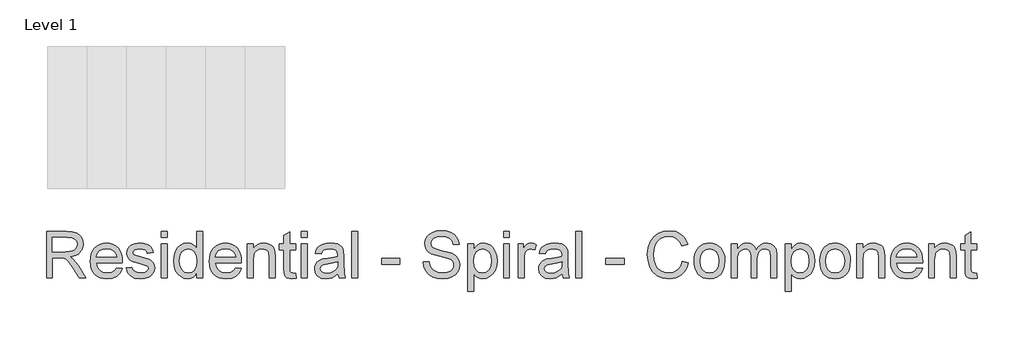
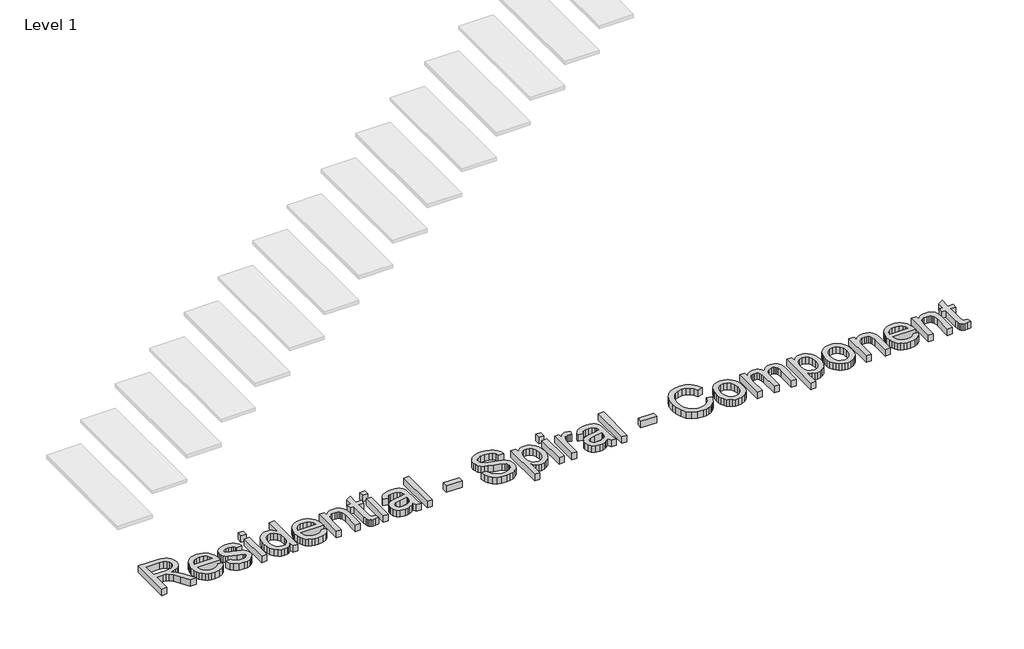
# One storey, part 3 of 26: 1 proxy.
"""IFC4 building model written with IfcOpenShell, lengths in millimetres."""

from ifc_helpers import new_model, si_unit, origin, origin_with_axes, place, context, project, spatial, polyline, outline, extrude, element, save

model = new_model("IFC4")

# Units and contexts
model_context = context("Model", 3, world=origin())
ifc_project = project(units=[si_unit("LENGTHUNIT", "METRE", prefix="MILLI")], contexts=[model_context])

# Site, building, storey
site = spatial("IfcSite", under=ifc_project)
building = spatial("IfcBuilding", under=site)
storey = spatial("IfcBuildingStorey", under=building, Name="Level 1", Elevation=0.0)

# Proxy
placement = place(None, origin())
element("IfcBuildingElementProxy", 1, Name="12\" Arial", ObjectType="12\" Arial", at=placement, inside=storey, context=model_context, shape_type="SweptSolid", body=[
    extrude(outline(polyline([(-27238.310174, -17955.1232123), (-27238.310174, -17655.012443), (-27108.9899817, -17655.012443), (-27074.2328904, -17657.0365055), (-27048.9458471, -17663.108693), (-27030.4636837, -17674.3188854), (-27016.1212317, -17691.7569623), (-27006.9167846, -17713.380544), (-27003.8486356, -17737.1472507), (-27008.9316885, -17766.7113854), (-27024.1808471, -17791.219943), (-27035.7321993, -17801.2074551), (-27050.0540442, -17809.1892219), (-27087.0092125, -17819.13552), (-27065.6878664, -17835.1814815), (-27035.2811356, -17873.7943661), (-26985.238251, -17955.1232123), (-27028.8334433, -17955.1232123), (-27067.8859433, -17892.9176354), (-27096.0945971, -17851.7403277), (-27115.913924, -17832.2873469), (-27133.7549817, -17825.1435969), (-27155.5159433, -17823.8247507), (-27200.7963279, -17823.8247507), (-27200.7963279, -17955.1232123), (-27238.310174, -17955.1232123)]), holes=[polyline([(-27200.7963279, -17786.3109046), (-27116.8297894, -17786.3109046), (-27092.7150539, -17784.9828998), (-27074.003924, -17780.9988854), (-27059.9179144, -17774.0932604), (-27049.6785394, -17764.0004238), (-27043.4414962, -17751.7919382), (-27041.3624817, -17738.5393661), (-27045.3281789, -17720.2403757), (-27057.2252702, -17705.494943), (-27077.6948615, -17695.7684527), (-27107.3780587, -17692.5262892), (-27200.7963279, -17692.5262892), (-27200.7963279, -17786.3109046)])]), origin_with_axes(), (0.0, 0.0, 1.0), 50.8),
    extrude(outline(polyline([(-26788.5836356, -17889.4739815), (-26751.8024817, -17894.1632123), (-26765.0550539, -17921.8772988), (-26786.2023856, -17942.5941738), (-26814.7682269, -17955.5078757), (-26850.2763279, -17959.812443), (-26873.5530466, -17957.955526), (-26894.2928183, -17952.3847748), (-26912.4956428, -17943.1001894), (-26928.1615202, -17930.10177), (-26940.7592486, -17913.7512832), (-26949.757626, -17894.4104959), (-26955.1566524, -17872.0794082), (-26956.9563279, -17846.75802), (-26955.1383351, -17820.5780079), (-26949.6843567, -17797.5027796), (-26940.5943928, -17777.5323349), (-26927.8684433, -17760.6666738), (-26912.2437798, -17747.2675632), (-26894.457674, -17737.69677), (-26874.510126, -17731.954294), (-26852.4011356, -17730.0401354), (-26831.0042305, -17731.9497147), (-26811.6542846, -17737.6784527), (-26794.3512978, -17747.2263493), (-26779.0952702, -17760.5934046), (-26766.6417906, -17777.422431), (-26757.7464481, -17797.3562411), (-26752.4092426, -17820.3948349), (-26750.630174, -17846.5382123), (-26750.8499817, -17856.6493661), (-26919.4424817, -17856.6493661), (-26912.9489962, -17884.7297988), (-26897.8646933, -17905.3734046), (-26876.0945731, -17918.0672988), (-26849.5436356, -17922.2985969), (-26829.5777702, -17920.338645), (-26812.7624817, -17914.4587892), (-26799.0977702, -17904.2926834), (-26788.5836356, -17889.4739815)]), holes=[polyline([(-26919.4424817, -17819.13552), (-26788.1440202, -17819.13552), (-26793.2179144, -17799.316193), (-26803.1642125, -17785.1385969), (-26825.0350779, -17771.9501354), (-26852.547674, -17767.5539815), (-26877.8347173, -17771.0617459), (-26898.743924, -17781.5850392), (-26913.2787077, -17797.9881882), (-26919.4424817, -17819.13552)])]), origin_with_axes(), (0.0, 0.0, 1.0), 50.8),
    extrude(outline(polyline([(-26727.1840202, -17889.4739815), (-26689.670174, -17884.7847507), (-26683.7536837, -17900.8307123), (-26672.3053664, -17912.6270584), (-26655.2519529, -17919.8807123), (-26632.520174, -17922.2985969), (-26610.0631548, -17920.0822027), (-26594.2736356, -17913.43302), (-26584.9318087, -17903.7981161), (-26581.8178664, -17892.6245584), (-26584.950126, -17883.0629238), (-26594.3469048, -17875.7726354), (-26632.9597894, -17865.0753277), (-26689.4503664, -17846.7213854), (-26703.747025, -17837.4986209), (-26714.1054625, -17825.2901354), (-26720.3974577, -17810.8744142), (-26722.4947894, -17795.029943), (-26720.8095971, -17780.4951594), (-26715.7540202, -17767.0777315), (-26707.7859914, -17755.3088613), (-26697.3634433, -17745.7197507), (-26673.5143087, -17734.6194623), (-26641.2392125, -17730.0401354), (-26616.8222414, -17731.8810248), (-26595.5924817, -17737.403693), (-26578.520751, -17746.0677796), (-26566.5778664, -17757.3329238), (-26558.6647894, -17772.0325632), (-26553.6824817, -17791.0001354), (-26591.1963279, -17795.6893661), (-26595.9313519, -17783.8838613), (-26605.3006548, -17774.9908084), (-26619.3958231, -17769.4131882), (-26638.3084433, -17767.5539815), (-26659.8495971, -17769.3307604), (-26674.2103664, -17774.6610969), (-26682.288299, -17782.3543661), (-26684.9809433, -17791.219943), (-26680.5115202, -17802.1370584), (-26666.5170971, -17810.4164815), (-26634.2053664, -17818.4028277), (-26579.1435394, -17836.0607123), (-26564.5995971, -17844.5049911), (-26553.5725779, -17856.0632123), (-26546.6211596, -17870.7720104), (-26544.3040202, -17888.66802), (-26547.0241404, -17907.1685007), (-26555.184501, -17924.569943), (-26568.4737077, -17939.5077075), (-26586.5803664, -17950.6171546), (-26608.4512317, -17957.5136209), (-26633.0330587, -17959.812443), (-26670.858299, -17955.3796546), (-26698.4624817, -17942.0812892), (-26716.8896933, -17920.0638854), (-26727.1840202, -17889.4739815)])), origin_with_axes(), (0.0, 0.0, 1.0), 50.8),
    extrude(outline(polyline([(-26502.1009433, -17955.1232123), (-26502.1009433, -17734.7293661), (-26464.5870971, -17734.7293661), (-26464.5870971, -17955.1232123), (-26502.1009433, -17955.1232123)])), origin_with_axes(), (0.0, 0.0, 1.0), 50.8),
    extrude(outline(polyline([(-26502.1009433, -17692.5262892), (-26502.1009433, -17655.012443), (-26464.5870971, -17655.012443), (-26464.5870971, -17692.5262892), (-26502.1009433, -17692.5262892)])), origin_with_axes(), (0.0, 0.0, 1.0), 50.8),
    extrude(outline(polyline([(-26272.3286356, -17955.1232123), (-26272.3286356, -17919.7341738), (-26283.5525659, -17937.2684166), (-26297.1485875, -17949.7928757), (-26313.1167005, -17957.3075512), (-26331.4569048, -17959.812443), (-26355.7090202, -17956.1856161), (-26377.9095971, -17945.3051354), (-26396.7031548, -17927.931169), (-26410.7342125, -17904.8238854), (-26419.4715683, -17876.9174671), (-26422.3840202, -17845.1460969), (-26419.7005346, -17813.7685488), (-26411.6500779, -17785.4316738), (-26398.2418087, -17761.747395), (-26379.4848856, -17744.3276354), (-26356.7989, -17733.6120104), (-26331.6034433, -17730.0401354), (-26313.249501, -17732.5953998), (-26297.0203664, -17740.261193), (-26283.2640683, -17752.0117459), (-26272.3286356, -17766.8212892), (-26272.3286356, -17655.012443), (-26234.8147894, -17655.012443), (-26234.8147894, -17955.1232123), (-26272.3286356, -17955.1232123)]), holes=[polyline([(-26384.870174, -17844.9995584), (-26380.638876, -17878.9323709), (-26367.9449817, -17903.0654238), (-26349.4994529, -17917.4903036), (-26328.013251, -17922.2985969), (-26306.5362077, -17917.7101113), (-26288.5577702, -17903.9446546), (-26276.3859192, -17880.7457844), (-26272.3286356, -17847.8570584), (-26276.4591885, -17811.9001834), (-26288.8508471, -17786.9703277), (-26307.2872173, -17772.408068), (-26329.5519048, -17767.5539815), (-26351.2579144, -17772.2157363), (-26369.0440202, -17786.2010007), (-26380.9136356, -17810.2241498), (-26384.870174, -17844.9995584)])]), origin_with_axes(), (0.0, 0.0, 1.0), 50.8),
    extrude(outline(polyline([(-26024.2390202, -17889.4739815), (-25987.4578664, -17894.1632123), (-26000.7104385, -17921.8772988), (-26021.8577702, -17942.5941738), (-26050.4236115, -17955.5078757), (-26085.9317125, -17959.812443), (-26109.2084313, -17957.955526), (-26129.9482029, -17952.3847748), (-26148.1510274, -17943.1001894), (-26163.8169048, -17930.10177), (-26176.4146332, -17913.7512832), (-26185.4130106, -17894.4104959), (-26190.812037, -17872.0794082), (-26192.6117125, -17846.75802), (-26190.7937197, -17820.5780079), (-26185.3397414, -17797.5027796), (-26176.2497774, -17777.5323349), (-26163.5238279, -17760.6666738), (-26147.8991644, -17747.2675632), (-26130.1130587, -17737.69677), (-26110.1655106, -17731.954294), (-26088.0565202, -17730.0401354), (-26066.6596152, -17731.9497147), (-26047.3096692, -17737.6784527), (-26030.0066825, -17747.2263493), (-26014.7506548, -17760.5934046), (-26002.2971753, -17777.422431), (-25993.4018327, -17797.3562411), (-25988.0646272, -17820.3948349), (-25986.2855587, -17846.5382123), (-25986.5053664, -17856.6493661), (-26155.0978664, -17856.6493661), (-26148.6043808, -17884.7297988), (-26133.5200779, -17905.3734046), (-26111.7499577, -17918.0672988), (-26085.1990202, -17922.2985969), (-26065.2331548, -17920.338645), (-26048.4178664, -17914.4587892), (-26034.7531548, -17904.2926834), (-26024.2390202, -17889.4739815)]), holes=[polyline([(-26155.0978664, -17819.13552), (-26023.7994048, -17819.13552), (-26028.873299, -17799.316193), (-26038.8195971, -17785.1385969), (-26060.6904625, -17771.9501354), (-26088.2030587, -17767.5539815), (-26113.4901019, -17771.0617459), (-26134.3993087, -17781.5850392), (-26148.9340923, -17797.9881882), (-26155.0978664, -17819.13552)])]), origin_with_axes(), (0.0, 0.0, 1.0), 50.8),
    extrude(outline(polyline([(-25948.7717125, -17955.1232123), (-25948.7717125, -17734.7293661), (-25911.2578664, -17734.7293661), (-25911.2578664, -17765.502443), (-25898.2251019, -17749.9876834), (-25882.5729625, -17738.9057123), (-25864.3014481, -17732.2565296), (-25843.4105587, -17730.0401354), (-25824.9192365, -17731.8260729), (-25807.9848856, -17737.1838854), (-25793.8622414, -17745.4449911), (-25783.8060394, -17755.9408084), (-25772.5592125, -17783.5266738), (-25770.5809433, -17819.794943), (-25770.5809433, -17955.1232123), (-25808.0947894, -17955.1232123), (-25808.0947894, -17824.85052), (-25812.417674, -17791.6595584), (-25818.398275, -17781.7773709), (-25827.6943087, -17774.1115777), (-25839.6097173, -17769.1933805), (-25853.4484433, -17767.5539815), (-25875.4200539, -17771.2357604), (-25894.149501, -17782.2810969), (-25901.6344108, -17791.2977916), (-25906.980775, -17803.6207604), (-25911.2578664, -17838.18552), (-25911.2578664, -17955.1232123), (-25948.7717125, -17955.1232123)])), origin_with_axes(), (0.0, 0.0, 1.0), 50.8),
    extrude(outline(polyline([(-25639.2824817, -17923.8372507), (-25634.593251, -17956.2222507), (-25662.6553664, -17959.812443), (-25680.6612798, -17958.2554719), (-25694.0878664, -17953.5845584), (-25703.5762317, -17946.3858565), (-25709.7674817, -17937.24552), (-25713.174501, -17921.5475873), (-25714.310174, -17894.6760969), (-25714.310174, -17772.2432123), (-25742.4455587, -17772.2432123), (-25742.4455587, -17734.7293661), (-25714.310174, -17734.7293661), (-25714.310174, -17681.1695584), (-25676.7963279, -17659.11552), (-25676.7963279, -17734.7293661), (-25639.2824817, -17734.7293661), (-25639.2824817, -17772.2432123), (-25676.7963279, -17772.2432123), (-25676.7963279, -17893.5770584), (-25674.8180587, -17912.9201354), (-25668.407001, -17919.7708084), (-25655.6215202, -17922.2985969), (-25639.2824817, -17923.8372507)])), origin_with_axes(), (0.0, 0.0, 1.0), 50.8),
    extrude(outline(polyline([(-25601.7686356, -17955.1232123), (-25601.7686356, -17734.7293661), (-25564.2547894, -17734.7293661), (-25564.2547894, -17955.1232123), (-25601.7686356, -17955.1232123)])), origin_with_axes(), (0.0, 0.0, 1.0), 50.8),
    extrude(outline(polyline([(-25601.7686356, -17692.5262892), (-25601.7686356, -17655.012443), (-25564.2547894, -17655.012443), (-25564.2547894, -17692.5262892), (-25601.7686356, -17692.5262892)])), origin_with_axes(), (0.0, 0.0, 1.0), 50.8),
    extrude(outline(polyline([(-25367.3070971, -17926.9878277), (-25385.2305827, -17942.3560488), (-25403.6852702, -17952.4122507), (-25423.0924577, -17957.962395), (-25443.8734433, -17959.812443), (-25475.2235154, -17955.3613373), (-25498.3491164, -17942.00802), (-25512.6091404, -17921.7307604), (-25517.3624817, -17896.5078277), (-25515.5673856, -17880.9564334), (-25510.1820971, -17866.8337892), (-25501.8751981, -17854.7443661), (-25491.3152702, -17845.2926354), (-25465.048251, -17832.9834046), (-25432.5899817, -17827.3416738), (-25394.2335394, -17821.4068661), (-25367.5269048, -17814.4462892), (-25367.3070971, -17806.0935969), (-25369.8898375, -17789.3515777), (-25377.6380587, -17778.3978277), (-25394.9662317, -17770.264943), (-25419.1084433, -17767.5539815), (-25441.4555587, -17769.3582363), (-25457.0619048, -17774.7710007), (-25467.7042606, -17784.7814094), (-25475.1594048, -17800.3785969), (-25512.673251, -17795.6893661), (-25506.1614481, -17775.1739815), (-25496.4441164, -17759.0547507), (-25482.614549, -17746.7272027), (-25463.7660394, -17737.5868661), (-25440.7137077, -17731.926818), (-25414.272674, -17730.0401354), (-25388.9123615, -17731.7070104), (-25368.8091164, -17736.7076354), (-25353.6515442, -17744.2268902), (-25343.128251, -17753.4496546), (-25336.1493567, -17764.8521786), (-25331.6249817, -17778.9107123), (-25329.793251, -17811.7353277), (-25329.793251, -17858.4078277), (-25327.888251, -17923.5808084), (-25320.4147894, -17955.1232123), (-25357.9286356, -17955.1232123), (-25367.3070971, -17926.9878277)]), holes=[polyline([(-25367.3070971, -17851.9601354), (-25427.8274817, -17863.4634046), (-25460.1025779, -17869.5447507), (-25474.7197894, -17879.4360969), (-25479.8486356, -17893.8701354), (-25477.0552462, -17905.0253757), (-25468.6750779, -17914.1657123), (-25454.8913039, -17920.2653757), (-25435.8870971, -17922.2985969), (-25415.7380587, -17920.0547267), (-25397.9336356, -17913.3231161), (-25383.4995971, -17903.404294), (-25373.4617125, -17891.5987892), (-25369.0106067, -17879.4360969), (-25367.5269048, -17862.5841738), (-25367.3070971, -17851.9601354)])]), origin_with_axes(), (0.0, 0.0, 1.0), 50.8),
    extrude(outline(polyline([(-25278.2117125, -17955.1232123), (-25278.2117125, -17655.012443), (-25240.6978664, -17655.012443), (-25240.6978664, -17955.1232123), (-25278.2117125, -17955.1232123)])), origin_with_axes(), (0.0, 0.0, 1.0), 50.8),
    extrude(outline(polyline([(-25085.953251, -17866.0278277), (-25085.953251, -17828.5139815), (-24968.7224817, -17828.5139815), (-24968.7224817, -17866.0278277), (-25085.953251, -17866.0278277)])), origin_with_axes(), (0.0, 0.0, 1.0), 50.8),
    extrude(outline(polyline([(-24818.6670971, -17851.9601354), (-24781.153251, -17851.9601354), (-24776.8486837, -17872.7777555), (-24769.0638279, -17889.5106161), (-24756.9194529, -17902.7906642), (-24739.5363279, -17913.2498469), (-24718.288251, -17920.0364094), (-24694.5490202, -17922.2985969), (-24673.6489721, -17920.5859286), (-24655.3499817, -17915.4479238), (-24640.5221212, -17907.3150392), (-24630.0354625, -17896.6177315), (-24623.7984192, -17884.3359767), (-24621.7194048, -17871.4497507), (-24623.276376, -17858.8932363), (-24627.9472894, -17848.0402315), (-24637.4356548, -17838.7808325), (-24653.4449817, -17831.0051354), (-24708.0671933, -17816.6810007), (-24743.9233231, -17807.201794), (-24766.865751, -17798.18052), (-24785.5402462, -17785.559895), (-24798.774501, -17770.264943), (-24806.6601019, -17752.6253757), (-24809.2886356, -17732.9709046), (-24806.0373135, -17710.999294), (-24796.2833471, -17690.5113854), (-24780.2831789, -17673.1465777), (-24758.293251, -17660.54427), (-24731.8980106, -17652.8784767), (-24702.6819048, -17650.3232123), (-24671.0295971, -17652.9975392), (-24643.3338279, -17661.02052), (-24620.5837317, -17674.2272988), (-24603.7684433, -17692.45302), (-24593.1260875, -17714.5620104), (-24588.8947894, -17739.4185969), (-24626.4086356, -17739.4185969), (-24633.2959433, -17717.0348469), (-24647.6567125, -17700.8789815), (-24670.0954144, -17691.0975392), (-24701.2165202, -17687.8370584), (-24733.0703183, -17691.0609046), (-24754.9228664, -17700.732443), (-24767.5618087, -17714.9649911), (-24771.7747894, -17731.8718661), (-24768.7890683, -17746.2875873), (-24759.8319048, -17757.882443), (-24738.6570971, -17768.2500392), (-24698.5788279, -17778.837443), (-24657.2183471, -17788.893645), (-24632.1969048, -17797.6676354), (-24610.8114481, -17811.277395), (-24595.892001, -17828.0743661), (-24587.1271692, -17847.8753757), (-24584.2055587, -17870.4972507), (-24587.5667846, -17893.6228517), (-24597.6504625, -17915.3746546), (-24614.0444529, -17934.094943), (-24636.3366164, -17948.1260007), (-24663.1439962, -17956.8908325), (-24693.0836356, -17959.812443), (-24729.8373135, -17956.6618661), (-24760.0883471, -17947.2101354), (-24784.1847654, -17931.4206161), (-24802.4745971, -17909.2566738), (-24814.2159914, -17882.2569623), (-24818.6670971, -17851.9601354)])), origin_with_axes(), (0.0, 0.0, 1.0), 50.8),
    extrude(outline(polyline([(-24532.6240202, -18039.5293661), (-24532.6240202, -17734.7293661), (-24495.110174, -17734.7293661), (-24495.110174, -17771.51052), (-24482.8742125, -17753.3672267), (-24469.1728664, -17740.4077315), (-24453.200174, -17732.6320344), (-24434.150174, -17730.0401354), (-24408.7807029, -17733.6669623), (-24386.5984433, -17744.547443), (-24368.5375779, -17762.0221546), (-24355.5322894, -17785.4316738), (-24347.6741644, -17813.0724911), (-24345.0547894, -17843.2410969), (-24348.0130346, -17875.3238613), (-24356.8877702, -17904.0179238), (-24371.3950779, -17927.8670584), (-24391.2510394, -17945.4150392), (-24414.3766404, -17956.2130921), (-24438.6928664, -17959.812443), (-24455.9386115, -17957.4037171), (-24471.3343087, -17950.1775392), (-24484.5136115, -17939.2695825), (-24495.110174, -17925.81552), (-24495.110174, -18039.5293661), (-24532.6240202, -18039.5293661)]), holes=[polyline([(-24495.110174, -17846.6847507), (-24491.0528904, -17880.3153277), (-24478.8810394, -17903.8347507), (-24460.9209192, -17917.6826354), (-24439.4988279, -17922.2985969), (-24417.7287077, -17917.5177796), (-24399.3106548, -17903.1753277), (-24386.7541404, -17878.7949911), (-24382.5686356, -17843.90052), (-24386.6533952, -17810.4531161), (-24398.907674, -17786.6039815), (-24416.8403183, -17772.3164815), (-24437.960174, -17767.5539815), (-24459.1624577, -17772.6187171), (-24477.782001, -17787.8129238), (-24490.7781308, -17812.6603517), (-24495.110174, -17846.6847507)])]), origin_with_axes(), (0.0, 0.0, 1.0), 50.8),
    extrude(outline(polyline([(-24302.8517125, -17955.1232123), (-24302.8517125, -17734.7293661), (-24265.3378664, -17734.7293661), (-24265.3378664, -17955.1232123), (-24302.8517125, -17955.1232123)])), origin_with_axes(), (0.0, 0.0, 1.0), 50.8),
    extrude(outline(polyline([(-24302.8517125, -17692.5262892), (-24302.8517125, -17655.012443), (-24265.3378664, -17655.012443), (-24265.3378664, -17692.5262892), (-24302.8517125, -17692.5262892)])), origin_with_axes(), (0.0, 0.0, 1.0), 50.8),
    extrude(outline(polyline([(-24209.0670971, -17955.1232123), (-24209.0670971, -17734.7293661), (-24176.2424817, -17734.7293661), (-24176.2424817, -17767.3341738), (-24164.116424, -17748.4307123), (-24152.9428664, -17737.2937892), (-24141.732674, -17731.8535488), (-24129.4967125, -17730.0401354), (-24110.8130587, -17732.93427), (-24091.8363279, -17741.6166738), (-24104.3653664, -17775.2472507), (-24117.5538279, -17769.4772988), (-24130.7422894, -17767.5539815), (-24141.9433231, -17769.4040296), (-24151.9537317, -17774.9541738), (-24160.0408231, -17783.7831161), (-24165.4719048, -17795.4695584), (-24170.0329144, -17816.4245584), (-24171.553251, -17839.2845584), (-24171.553251, -17955.1232123), (-24209.0670971, -17955.1232123)])), origin_with_axes(), (0.0, 0.0, 1.0), 50.8),
    extrude(outline(polyline([(-23927.713251, -17926.9878277), (-23945.6367365, -17942.3560488), (-23964.091424, -17952.4122507), (-23983.4986115, -17957.962395), (-24004.2795971, -17959.812443), (-24035.6296692, -17955.3613373), (-24058.7552702, -17942.00802), (-24073.0152942, -17921.7307604), (-24077.7686356, -17896.5078277), (-24075.9735394, -17880.9564334), (-24070.588251, -17866.8337892), (-24062.2813519, -17854.7443661), (-24051.721424, -17845.2926354), (-24025.4544048, -17832.9834046), (-23992.9961356, -17827.3416738), (-23954.6396933, -17821.4068661), (-23927.9330587, -17814.4462892), (-23927.713251, -17806.0935969), (-23930.2959914, -17789.3515777), (-23938.0442125, -17778.3978277), (-23955.3723856, -17770.264943), (-23979.5145971, -17767.5539815), (-24001.8617125, -17769.3582363), (-24017.4680587, -17774.7710007), (-24028.1104144, -17784.7814094), (-24035.5655587, -17800.3785969), (-24073.0794048, -17795.6893661), (-24066.5676019, -17775.1739815), (-24056.8502702, -17759.0547507), (-24043.0207029, -17746.7272027), (-24024.1721933, -17737.5868661), (-24001.1198615, -17731.926818), (-23974.6788279, -17730.0401354), (-23949.3185154, -17731.7070104), (-23929.2152702, -17736.7076354), (-23914.0576981, -17744.2268902), (-23903.5344048, -17753.4496546), (-23896.5555106, -17764.8521786), (-23892.0311356, -17778.9107123), (-23890.1994048, -17811.7353277), (-23890.1994048, -17858.4078277), (-23888.2944048, -17923.5808084), (-23880.8209433, -17955.1232123), (-23918.3347894, -17955.1232123), (-23927.713251, -17926.9878277)]), holes=[polyline([(-23927.713251, -17851.9601354), (-23988.2336356, -17863.4634046), (-24020.5087317, -17869.5447507), (-24035.1259433, -17879.4360969), (-24040.2547894, -17893.8701354), (-24037.4614, -17905.0253757), (-24029.0812317, -17914.1657123), (-24015.2974577, -17920.2653757), (-23996.293251, -17922.2985969), (-23976.1442125, -17920.0547267), (-23958.3397894, -17913.3231161), (-23943.905751, -17903.404294), (-23933.8678664, -17891.5987892), (-23929.4167606, -17879.4360969), (-23927.9330587, -17862.5841738), (-23927.713251, -17851.9601354)])]), origin_with_axes(), (0.0, 0.0, 1.0), 50.8),
    extrude(outline(polyline([(-23838.6178664, -17955.1232123), (-23838.6178664, -17655.012443), (-23801.1040202, -17655.012443), (-23801.1040202, -17955.1232123), (-23838.6178664, -17955.1232123)])), origin_with_axes(), (0.0, 0.0, 1.0), 50.8),
    extrude(outline(polyline([(-23646.3594048, -17866.0278277), (-23646.3594048, -17828.5139815), (-23529.1286356, -17828.5139815), (-23529.1286356, -17866.0278277), (-23646.3594048, -17866.0278277)])), origin_with_axes(), (0.0, 0.0, 1.0), 50.8),
    extrude(outline(polyline([(-23153.990174, -17848.4432123), (-23116.4763279, -17858.1147507), (-23123.8994168, -17881.4441317), (-23133.7861837, -17901.8290055), (-23146.1366284, -17919.2693721), (-23160.950751, -17933.7652315), (-23177.8942606, -17945.1608866), (-23196.6328664, -17953.3006402), (-23217.1665683, -17958.1844923), (-23239.4953664, -17959.812443), (-23283.0081308, -17954.8850873), (-23317.5637317, -17940.10302), (-23344.0505587, -17915.9791257), (-23363.357001, -17883.0262892), (-23375.1441885, -17844.2851834), (-23379.073251, -17802.7964815), (-23374.6313039, -17759.0364334), (-23361.3054625, -17721.2478277), (-23339.7917846, -17690.6304479), (-23310.7863279, -17668.3840777), (-23276.386424, -17654.8384286), (-23238.6894048, -17650.3232123), (-23197.5578904, -17656.1664334), (-23179.6641704, -17663.4704599), (-23163.5518087, -17673.6960969), (-23149.486406, -17686.5731642), (-23137.7335635, -17701.8314815), (-23121.1655587, -17739.4918661), (-23158.6794048, -17748.4307123), (-23171.6846933, -17721.0738132), (-23189.4524817, -17702.3077315), (-23212.2025779, -17691.4547267), (-23240.1547894, -17687.8370584), (-23272.3749337, -17691.8485488), (-23298.8434433, -17703.88302), (-23318.9283712, -17722.6765777), (-23331.9977702, -17746.9653277), (-23339.1689962, -17774.4229719), (-23341.5594048, -17802.7232123), (-23338.7293808, -17837.3795584), (-23330.2393087, -17867.3466738), (-23315.7686356, -17891.4797267), (-23294.9968087, -17908.6338854), (-23270.0944289, -17918.882419), (-23243.2320971, -17922.2985969), (-23211.9186596, -17917.6460007), (-23185.8256548, -17903.6882123), (-23166.1253904, -17880.57177), (-23153.990174, -17848.4432123)])), origin_with_axes(), (0.0, 0.0, 1.0), 50.8),
    extrude(outline(polyline([(-23078.9624817, -17844.9262892), (-23076.9338399, -17816.3833445), (-23070.8479144, -17791.7877796), (-23060.7047053, -17771.1395945), (-23046.5042125, -17754.4387892), (-23032.2075539, -17743.7643781), (-23016.4271933, -17736.1397988), (-22999.1631308, -17731.5650512), (-22980.4153664, -17730.0401354), (-22959.7190983, -17731.8970524), (-22941.0056789, -17737.4678036), (-22924.2751079, -17746.752389), (-22909.5273856, -17759.7508084), (-22897.4906248, -17776.0234466), (-22888.8929385, -17795.1306882), (-22883.7343267, -17817.0725332), (-22882.0147894, -17841.8489815), (-22885.0554625, -17879.7474911), (-22894.1774817, -17908.5972507), (-22909.1152462, -17930.2025152), (-22929.6031548, -17946.3675392), (-22953.9376981, -17956.4512171), (-22980.4153664, -17959.812443), (-23001.41387, -17957.962395), (-23020.3013039, -17952.4122507), (-23037.077668, -17943.1620104), (-23051.7429625, -17930.2116738), (-23063.6515022, -17913.7810488), (-23072.1576019, -17894.089943), (-23077.2612618, -17871.1383565), (-23078.9624817, -17844.9262892)]), holes=[polyline([(-23041.4486356, -17844.85302), (-23037.1074337, -17878.8041498), (-23024.0838279, -17902.9921546), (-23004.4843087, -17917.4719863), (-22980.4153664, -17922.2985969), (-22956.4563279, -17917.4445104), (-22936.8934433, -17902.8822507), (-22923.8698375, -17878.373693), (-22919.5286356, -17843.6807123), (-22923.8973135, -17810.7187171), (-22937.0033471, -17786.8604238), (-22956.5937077, -17772.3805921), (-22980.4153664, -17767.5539815), (-23004.4843087, -17772.3622748), (-23024.0838279, -17786.7871546), (-23037.1074337, -17810.9202075), (-23041.4486356, -17844.85302)])]), origin_with_axes(), (0.0, 0.0, 1.0), 50.8),
    extrude(outline(polyline([(-22839.8117125, -17955.1232123), (-22839.8117125, -17734.7293661), (-22802.2978664, -17734.7293661), (-22802.2978664, -17770.9976354), (-22791.0144048, -17754.338044), (-22776.5070971, -17741.2869623), (-22759.2705106, -17732.8518421), (-22739.7992125, -17730.0401354), (-22718.935799, -17732.906794), (-22702.2120971, -17741.50677), (-22689.7196933, -17755.2722267), (-22681.550174, -17773.6353277), (-22667.8763039, -17754.562431), (-22652.2791164, -17740.9389334), (-22634.7586115, -17732.7648349), (-22615.3147894, -17730.0401354), (-22587.1152942, -17734.573669), (-22566.2610394, -17748.17427), (-22553.3748135, -17771.2082844), (-22549.0794048, -17804.0420584), (-22549.0794048, -17955.1232123), (-22586.593251, -17955.1232123), (-22586.593251, -17820.1612892), (-22590.0735394, -17788.838693), (-22594.9642606, -17780.2020825), (-22602.6758471, -17773.41552), (-22612.5946692, -17769.0193661), (-22624.1070971, -17767.5539815), (-22644.43015, -17771.3090296), (-22660.9981548, -17782.5741738), (-22672.0160154, -17802.1187411), (-22675.6886356, -17830.7120584), (-22675.6886356, -17955.1232123), (-22713.2024817, -17955.1232123), (-22713.2024817, -17815.984943), (-22715.3730827, -17794.7735007), (-22721.8848856, -17779.6434046), (-22733.3423615, -17770.5763373), (-22750.3499817, -17767.5539815), (-22764.8023375, -17769.5688854), (-22778.1190202, -17775.6135969), (-22789.1094048, -17785.5415777), (-22796.5828664, -17799.2062892), (-22800.8691164, -17818.1647027), (-22802.2978664, -17843.9737892), (-22802.2978664, -17955.1232123), (-22839.8117125, -17955.1232123)])), origin_with_axes(), (0.0, 0.0, 1.0), 50.8),
    extrude(outline(polyline([(-22492.8086356, -18039.5293661), (-22492.8086356, -17734.7293661), (-22455.2947894, -17734.7293661), (-22455.2947894, -17771.51052), (-22443.0588279, -17753.3672267), (-22429.3574817, -17740.4077315), (-22413.3847894, -17732.6320344), (-22394.3347894, -17730.0401354), (-22368.9653183, -17733.6669623), (-22346.7830587, -17744.547443), (-22328.7221933, -17762.0221546), (-22315.7169048, -17785.4316738), (-22307.8587798, -17813.0724911), (-22305.2394048, -17843.2410969), (-22308.19765, -17875.3238613), (-22317.0723856, -17904.0179238), (-22331.5796933, -17927.8670584), (-22351.4356548, -17945.4150392), (-22374.5612558, -17956.2130921), (-22398.8774817, -17959.812443), (-22416.1232269, -17957.4037171), (-22431.518924, -17950.1775392), (-22444.6982269, -17939.2695825), (-22455.2947894, -17925.81552), (-22455.2947894, -18039.5293661), (-22492.8086356, -18039.5293661)]), holes=[polyline([(-22455.2947894, -17846.6847507), (-22451.2375058, -17880.3153277), (-22439.0656548, -17903.8347507), (-22421.1055346, -17917.6826354), (-22399.6834433, -17922.2985969), (-22377.9133231, -17917.5177796), (-22359.4952702, -17903.1753277), (-22346.9387558, -17878.7949911), (-22342.753251, -17843.90052), (-22346.8380106, -17810.4531161), (-22359.0922894, -17786.6039815), (-22377.0249337, -17772.3164815), (-22398.1447894, -17767.5539815), (-22419.3470731, -17772.6187171), (-22437.9666164, -17787.8129238), (-22450.9627462, -17812.6603517), (-22455.2947894, -17846.6847507)])]), origin_with_axes(), (0.0, 0.0, 1.0), 50.8),
    extrude(outline(polyline([(-22272.4147894, -17844.9262892), (-22270.3861476, -17816.3833445), (-22264.3002221, -17791.7877796), (-22254.157013, -17771.1395945), (-22239.9565202, -17754.4387892), (-22225.6598615, -17743.7643781), (-22209.879501, -17736.1397988), (-22192.6154385, -17731.5650512), (-22173.867674, -17730.0401354), (-22153.171406, -17731.8970524), (-22134.4579865, -17737.4678036), (-22117.7274156, -17746.752389), (-22102.9796933, -17759.7508084), (-22090.9429325, -17776.0234466), (-22082.3452462, -17795.1306882), (-22077.1866344, -17817.0725332), (-22075.4670971, -17841.8489815), (-22078.5077702, -17879.7474911), (-22087.6297894, -17908.5972507), (-22102.5675539, -17930.2025152), (-22123.0554625, -17946.3675392), (-22147.3900058, -17956.4512171), (-22173.867674, -17959.812443), (-22194.8661777, -17957.962395), (-22213.7536115, -17952.4122507), (-22230.5299757, -17943.1620104), (-22245.1952702, -17930.2116738), (-22257.1038099, -17913.7810488), (-22265.6099096, -17894.089943), (-22270.7135695, -17871.1383565), (-22272.4147894, -17844.9262892)]), holes=[polyline([(-22234.9009433, -17844.85302), (-22230.5597414, -17878.8041498), (-22217.5361356, -17902.9921546), (-22197.9366164, -17917.4719863), (-22173.867674, -17922.2985969), (-22149.9086356, -17917.4445104), (-22130.345751, -17902.8822507), (-22117.3221452, -17878.373693), (-22112.9809433, -17843.6807123), (-22117.3496212, -17810.7187171), (-22130.4556548, -17786.8604238), (-22150.0460154, -17772.3805921), (-22173.867674, -17767.5539815), (-22197.9366164, -17772.3622748), (-22217.5361356, -17786.7871546), (-22230.5597414, -17810.9202075), (-22234.9009433, -17844.85302)])]), origin_with_axes(), (0.0, 0.0, 1.0), 50.8),
    extrude(outline(polyline([(-22033.2640202, -17955.1232123), (-22033.2640202, -17734.7293661), (-21995.750174, -17734.7293661), (-21995.750174, -17765.502443), (-21982.7174096, -17749.9876834), (-21967.0652702, -17738.9057123), (-21948.7937558, -17732.2565296), (-21927.9028664, -17730.0401354), (-21909.4115442, -17731.8260729), (-21892.4771933, -17737.1838854), (-21878.354549, -17745.4449911), (-21868.2983471, -17755.9408084), (-21857.0515202, -17783.5266738), (-21855.073251, -17819.794943), (-21855.073251, -17955.1232123), (-21892.5870971, -17955.1232123), (-21892.5870971, -17824.85052), (-21896.9099817, -17791.6595584), (-21902.8905827, -17781.7773709), (-21912.1866164, -17774.1115777), (-21924.102025, -17769.1933805), (-21937.940751, -17767.5539815), (-21959.9123615, -17771.2357604), (-21978.6418087, -17782.2810969), (-21986.1267185, -17791.2977916), (-21991.4730827, -17803.6207604), (-21995.750174, -17838.18552), (-21995.750174, -17955.1232123), (-22033.2640202, -17955.1232123)])), origin_with_axes(), (0.0, 0.0, 1.0), 50.8),
    extrude(outline(polyline([(-21649.1867125, -17889.4739815), (-21612.4055587, -17894.1632123), (-21625.6581308, -17921.8772988), (-21646.8054625, -17942.5941738), (-21675.3713039, -17955.5078757), (-21710.8794048, -17959.812443), (-21734.1561236, -17957.955526), (-21754.8958952, -17952.3847748), (-21773.0987197, -17943.1001894), (-21788.7645971, -17930.10177), (-21801.3623255, -17913.7512832), (-21810.3607029, -17894.4104959), (-21815.7597293, -17872.0794082), (-21817.5594048, -17846.75802), (-21815.741412, -17820.5780079), (-21810.2874337, -17797.5027796), (-21801.1974697, -17777.5323349), (-21788.4715202, -17760.6666738), (-21772.8468567, -17747.2675632), (-21755.060751, -17737.69677), (-21735.1132029, -17731.954294), (-21713.0042125, -17730.0401354), (-21691.6073075, -17731.9497147), (-21672.2573615, -17737.6784527), (-21654.9543748, -17747.2263493), (-21639.6983471, -17760.5934046), (-21627.2448676, -17777.422431), (-21618.349525, -17797.3562411), (-21613.0123195, -17820.3948349), (-21611.233251, -17846.5382123), (-21611.4530587, -17856.6493661), (-21780.0455587, -17856.6493661), (-21773.5520731, -17884.7297988), (-21758.4677702, -17905.3734046), (-21736.69765, -17918.0672988), (-21710.1467125, -17922.2985969), (-21690.1808471, -17920.338645), (-21673.3655587, -17914.4587892), (-21659.7008471, -17904.2926834), (-21649.1867125, -17889.4739815)]), holes=[polyline([(-21780.0455587, -17819.13552), (-21648.7470971, -17819.13552), (-21653.8209914, -17799.316193), (-21663.7672894, -17785.1385969), (-21685.6381548, -17771.9501354), (-21713.150751, -17767.5539815), (-21738.4377942, -17771.0617459), (-21759.347001, -17781.5850392), (-21773.8817846, -17797.9881882), (-21780.0455587, -17819.13552)])]), origin_with_axes(), (0.0, 0.0, 1.0), 50.8),
    extrude(outline(polyline([(-21573.7194048, -17955.1232123), (-21573.7194048, -17734.7293661), (-21536.2055587, -17734.7293661), (-21536.2055587, -17765.502443), (-21523.1727942, -17749.9876834), (-21507.5206548, -17738.9057123), (-21489.2491404, -17732.2565296), (-21468.358251, -17730.0401354), (-21449.8669289, -17731.8260729), (-21432.9325779, -17737.1838854), (-21418.8099337, -17745.4449911), (-21408.7537317, -17755.9408084), (-21397.5069048, -17783.5266738), (-21395.5286356, -17819.794943), (-21395.5286356, -17955.1232123), (-21433.0424817, -17955.1232123), (-21433.0424817, -17824.85052), (-21437.3653664, -17791.6595584), (-21443.3459673, -17781.7773709), (-21452.642001, -17774.1115777), (-21464.5574096, -17769.1933805), (-21478.3961356, -17767.5539815), (-21500.3677462, -17771.2357604), (-21519.0971933, -17782.2810969), (-21526.5821031, -17791.2977916), (-21531.9284673, -17803.6207604), (-21536.2055587, -17838.18552), (-21536.2055587, -17955.1232123), (-21573.7194048, -17955.1232123)])), origin_with_axes(), (0.0, 0.0, 1.0), 50.8),
    extrude(outline(polyline([(-21264.230174, -17923.8372507), (-21259.5409433, -17956.2222507), (-21287.6030587, -17959.812443), (-21305.6089721, -17958.2554719), (-21319.0355587, -17953.5845584), (-21328.523924, -17946.3858565), (-21334.715174, -17937.24552), (-21338.1221933, -17921.5475873), (-21339.2578664, -17894.6760969), (-21339.2578664, -17772.2432123), (-21367.393251, -17772.2432123), (-21367.393251, -17734.7293661), (-21339.2578664, -17734.7293661), (-21339.2578664, -17681.1695584), (-21301.7440202, -17659.11552), (-21301.7440202, -17734.7293661), (-21264.230174, -17734.7293661), (-21264.230174, -17772.2432123), (-21301.7440202, -17772.2432123), (-21301.7440202, -17893.5770584), (-21299.765751, -17912.9201354), (-21293.3546933, -17919.7708084), (-21280.5692125, -17922.2985969), (-21264.230174, -17923.8372507)])), origin_with_axes(), (0.0, 0.0, 1.0), 50.8),
])

save(model, "model.ifc")
